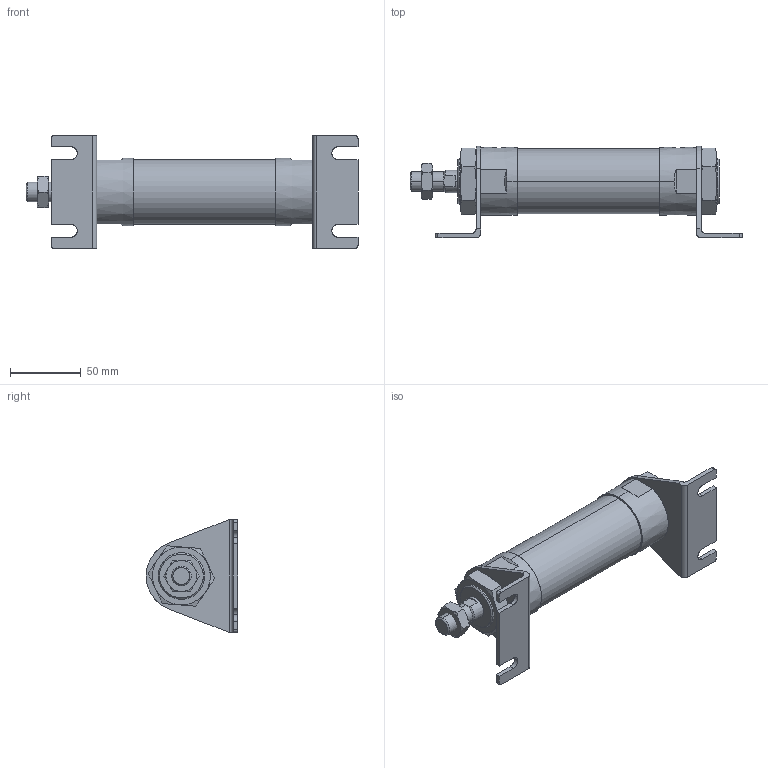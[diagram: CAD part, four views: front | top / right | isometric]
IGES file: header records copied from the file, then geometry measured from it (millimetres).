
Start section: SolidWorks IGES file using analytic representation for surfaces
Global section: file name: C:\Users\Toshiba\Desktop\J#2-40-50-L.IGS; native system: SolidWorks 2014; preprocessor: SolidWorks 2014; author: Toshiba; date: 160310.090434; units: millimetre
Bounding box: 235.2 x 65 x 80 mm (x, y, z)
Surface area: 63812.1 mm2 (no closed solid volume)
Topology: 0 solids, 0 shells, 170 faces, 3118 edges, 3114 vertices
Faces by surface type: bspline 107, revolution 63
